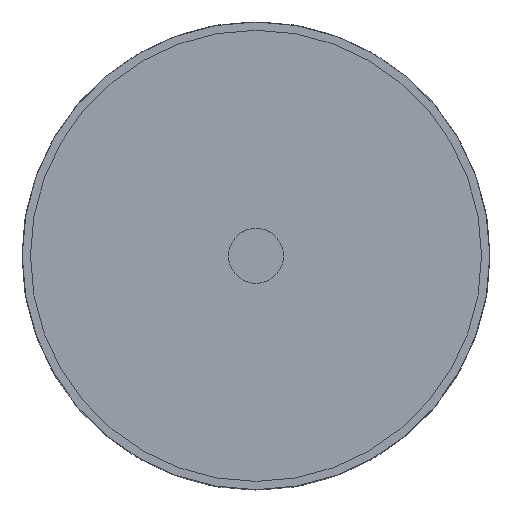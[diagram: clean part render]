
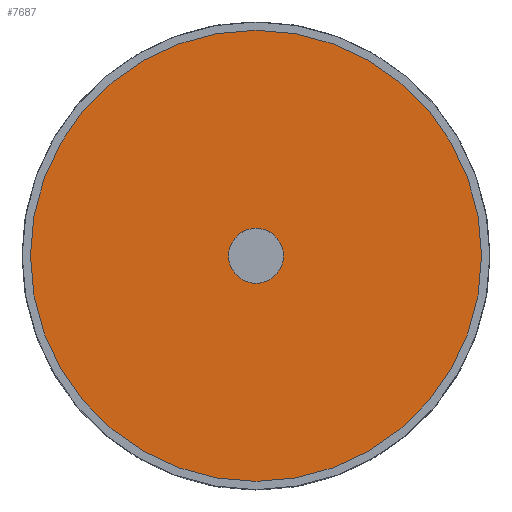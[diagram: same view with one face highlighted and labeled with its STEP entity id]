
A CAD part, top view. The second image highlights one B-rep face of the part: STEP entity #7687.
In plain terms, the highlighted planar face has unit normal (0, 0, 1).
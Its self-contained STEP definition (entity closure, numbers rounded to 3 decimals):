
#7603 = EDGE_CURVE('',#7604,#7604,#7606,.T.);
#7604 = VERTEX_POINT('',#7605);
#7605 = CARTESIAN_POINT('',(8.2,0.,8.8));
#7606 = SURFACE_CURVE('',#7607,(#7612,#7624),.PCURVE_S1.);
#7607 = CIRCLE('',#7608,8.2);
#7608 = AXIS2_PLACEMENT_3D('',#7609,#7610,#7611);
#7609 = CARTESIAN_POINT('',(0.,0.,8.8));
#7610 = DIRECTION('',(0.,0.,1.));
#7611 = DIRECTION('',(1.,0.,-0.));
#7612 = PCURVE('',#7613,#7618);
#7613 = CYLINDRICAL_SURFACE('',#7614,8.2);
#7614 = AXIS2_PLACEMENT_3D('',#7615,#7616,#7617);
#7615 = CARTESIAN_POINT('',(0.,0.,8.));
#7616 = DIRECTION('',(0.,0.,1.));
#7617 = DIRECTION('',(1.,0.,-0.));
#7618 = DEFINITIONAL_REPRESENTATION('',(#7619),#7623);
#7619 = LINE('',#7620,#7621);
#7620 = CARTESIAN_POINT('',(0.,0.8));
#7621 = VECTOR('',#7622,1.);
#7622 = DIRECTION('',(1.,0.));
#7623 = ( GEOMETRIC_REPRESENTATION_CONTEXT(2) 
PARAMETRIC_REPRESENTATION_CONTEXT() REPRESENTATION_CONTEXT('2D SPACE',''
  ) );
#7624 = PCURVE('',#7625,#7630);
#7625 = PLANE('',#7626);
#7626 = AXIS2_PLACEMENT_3D('',#7627,#7628,#7629);
#7627 = CARTESIAN_POINT('',(0.,0.,8.8));
#7628 = DIRECTION('',(0.,0.,1.));
#7629 = DIRECTION('',(1.,0.,-0.));
#7630 = DEFINITIONAL_REPRESENTATION('',(#7631),#7635);
#7631 = CIRCLE('',#7632,8.2);
#7632 = AXIS2_PLACEMENT_2D('',#7633,#7634);
#7633 = CARTESIAN_POINT('',(0.,0.));
#7634 = DIRECTION('',(1.,0.));
#7635 = ( GEOMETRIC_REPRESENTATION_CONTEXT(2) 
PARAMETRIC_REPRESENTATION_CONTEXT() REPRESENTATION_CONTEXT('2D SPACE',''
  ) );
#7687 = ADVANCED_FACE('',(#7688,#7691),#7625,.T.);
#7688 = FACE_BOUND('',#7689,.T.);
#7689 = EDGE_LOOP('',(#7690));
#7690 = ORIENTED_EDGE('',*,*,#7603,.T.);
#7691 = FACE_BOUND('',#7692,.T.);
#7692 = EDGE_LOOP('',(#7693));
#7693 = ORIENTED_EDGE('',*,*,#7694,.F.);
#7694 = EDGE_CURVE('',#7695,#7695,#7697,.T.);
#7695 = VERTEX_POINT('',#7696);
#7696 = CARTESIAN_POINT('',(1.,0.,8.8));
#7697 = SURFACE_CURVE('',#7698,(#7703,#7710),.PCURVE_S1.);
#7698 = CIRCLE('',#7699,1.);
#7699 = AXIS2_PLACEMENT_3D('',#7700,#7701,#7702);
#7700 = CARTESIAN_POINT('',(0.,0.,8.8));
#7701 = DIRECTION('',(0.,0.,1.));
#7702 = DIRECTION('',(1.,0.,-0.));
#7703 = PCURVE('',#7625,#7704);
#7704 = DEFINITIONAL_REPRESENTATION('',(#7705),#7709);
#7705 = CIRCLE('',#7706,1.);
#7706 = AXIS2_PLACEMENT_2D('',#7707,#7708);
#7707 = CARTESIAN_POINT('',(0.,0.));
#7708 = DIRECTION('',(1.,0.));
#7709 = ( GEOMETRIC_REPRESENTATION_CONTEXT(2) 
PARAMETRIC_REPRESENTATION_CONTEXT() REPRESENTATION_CONTEXT('2D SPACE',''
  ) );
#7710 = PCURVE('',#7711,#7716);
#7711 = CYLINDRICAL_SURFACE('',#7712,1.);
#7712 = AXIS2_PLACEMENT_3D('',#7713,#7714,#7715);
#7713 = CARTESIAN_POINT('',(0.,0.,7.99));
#7714 = DIRECTION('',(0.,0.,1.));
#7715 = DIRECTION('',(1.,0.,-0.));
#7716 = DEFINITIONAL_REPRESENTATION('',(#7717),#7721);
#7717 = LINE('',#7718,#7719);
#7718 = CARTESIAN_POINT('',(0.,0.81));
#7719 = VECTOR('',#7720,1.);
#7720 = DIRECTION('',(1.,0.));
#7721 = ( GEOMETRIC_REPRESENTATION_CONTEXT(2) 
PARAMETRIC_REPRESENTATION_CONTEXT() REPRESENTATION_CONTEXT('2D SPACE',''
  ) );
